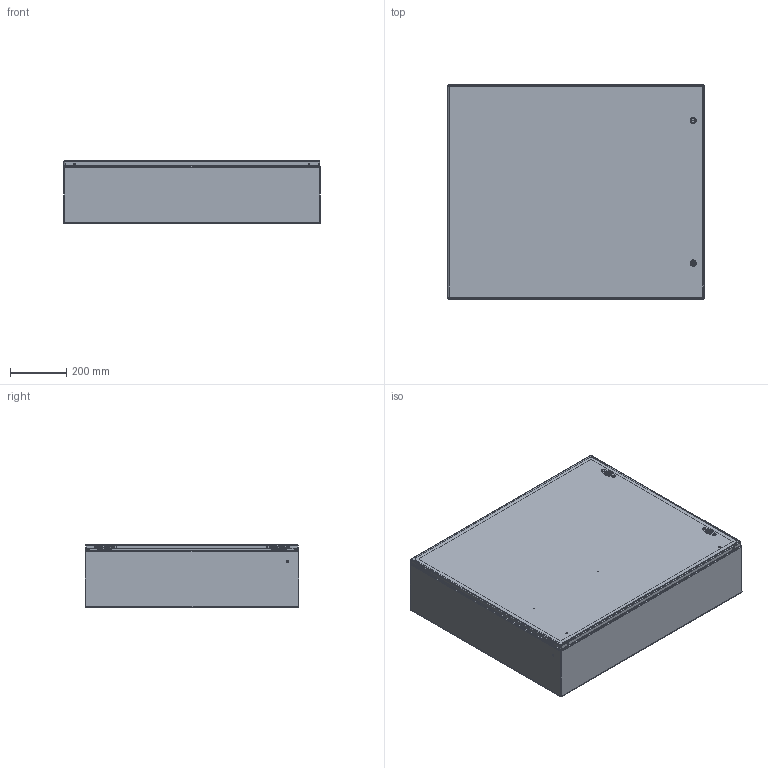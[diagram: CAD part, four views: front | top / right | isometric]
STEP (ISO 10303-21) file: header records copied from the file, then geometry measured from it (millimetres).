
FILE_DESCRIPTION (( 'STEP AP203' ), '1' );
FILE_NAME ('29413.step', '2015-03-30T06:19:05', ( '' ), ( '' ), 'SwSTEP 2.0', 'SolidWorks 2010', '' );
FILE_SCHEMA (( 'CONFIG_CONTROL_DESIGN' ));
Length unit declared in the file: inch
Products named in the file (26): 29413; 89116992; 89116991_default; 23271001_After Weld; 89116995_assy; 89116994_weldment; 89116993; 99401225; 87931362_87931362; 51123001_Post weld; 64101001; 64201001; 87541994_Installed Height; 87541995; 64202001; 64210001; 64203001; 89116996; 87555298; 87543027; 89076399; 89076193; 89056623; 87929507; 87929767; 87929769_Installed on Pin
Assembly tree (34 placements, depth 4):
  29413
    87929507  x2
      87929769_Installed on Pin
      87929767
    89116992
      23271001_After Weld  x4
      89116991_default
      99401225
    89076399  x2
      89076193
      89056623
    87543027  x2
    89116995_assy
      64101001  x2
        64210001
        64201001
        87541994_Installed Height
        64203001
        87541995
        64202001
      89116996
      89116994_weldment
        99401225
        89116993
        51123001_Post weld
        87931362_87931362  x2
      87555298
Bounding box: 914.4 x 762 x 223.9 mm (x, y, z)
Volume: 4296645.9 mm3; surface area: 4589259.7 mm2
Topology: 37 solids, 37 shells, 1579 faces, 3883 edges, 2399 vertices
Faces by surface type: plane 636, cylinder 532, bspline 224, torus 108, cone 70, sphere 9
Entity records: 35603 total; most frequent: CARTESIAN_POINT 10166, ORIENTED_EDGE 4732, DIRECTION 4566, EDGE_CURVE 2366, AXIS2_PLACEMENT_3D 1647, VERTEX_POINT 1457, VECTOR 1272, LINE 1272
